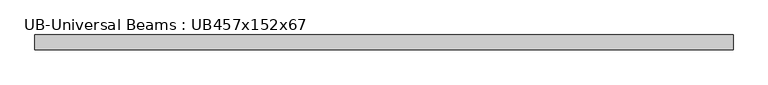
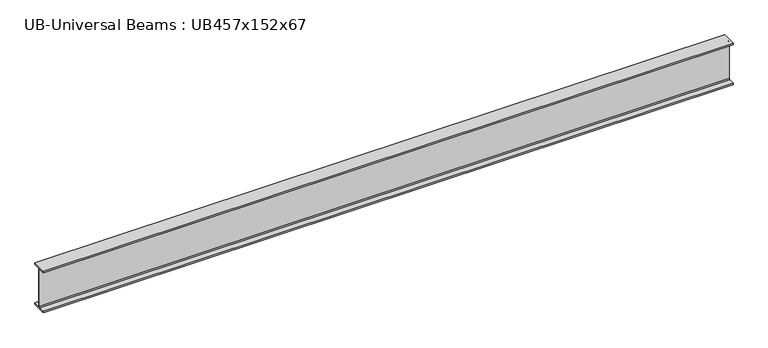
"""IFC4 building model written with IfcOpenShell, lengths in millimetres: beam geometry, UB-Universal Beams : UB457x152x67."""

from ifc_helpers import new_model, si_unit, point, frame, frame_2d, origin, place, context, project, spatial, polyline, circle_curve, trimmed, segment, composite_curve, outline, extrude, source, transform, mapped, element, save


def ub_universal_beams_ub457x152x67_691381ed(model_context):
    return source(origin(), model_context, "Body", "SweptSolid", [
        extrude(outline(composite_curve([segment(polyline([(76.9, -214.0), (76.9, -229.0), (-76.9, -229.0), (-76.9, -214.0), (-14.7, -214.0)]), True, "CONTINUOUS"), segment(trimmed(circle_curve(frame_2d((-14.7, -203.8)), 10.2), [point((-14.7, -214.0))], [point((-4.5, -203.8))], True, "CARTESIAN"), True, "CONTINUOUS"), segment(polyline([(-4.5, -203.8), (-4.5, 203.8)]), True, "CONTINUOUS"), segment(trimmed(circle_curve(frame_2d((-14.7, 203.8)), 10.2), [point((-4.5, 203.8))], [point((-14.7, 214.0))], True, "CARTESIAN"), True, "CONTINUOUS"), segment(polyline([(-14.7, 214.0), (-76.9, 214.0), (-76.9, 229.0), (76.9, 229.0), (76.9, 214.0), (14.7, 214.0)]), True, "CONTINUOUS"), segment(trimmed(circle_curve(frame_2d((14.7, 203.8)), 10.2), [point((14.7, 214.0))], [point((4.5, 203.8))], True, "CARTESIAN"), True, "CONTINUOUS"), segment(polyline([(4.5, 203.8), (4.5, -203.8)]), True, "CONTINUOUS"), segment(trimmed(circle_curve(frame_2d((14.7, -203.8)), 10.2), [point((4.5, -203.8))], [point((14.7, -214.0))], True, "CARTESIAN"), True, "CONTINUOUS"), segment(polyline([(14.7, -214.0), (76.9, -214.0)]), True, "CONTINUOUS")], self_intersect=False)), frame((-3637.3, 0.0, 0.0), z_axis=(1.0, 0.0, 0.0), x_axis=(0.0, 1.0, 0.0)), (0.0, 0.0, 1.0), 7220.9),
    ])


if __name__ == "__main__":
    model = new_model("IFC4")
    model_context = context("Model", 3, world=origin())
    ifc_project = project(units=[si_unit("LENGTHUNIT", "METRE", prefix="MILLI")], contexts=[model_context])
    site = spatial("IfcSite", under=ifc_project)
    building = spatial("IfcBuilding", under=site)
    placement = place(None, origin())
    ub_universal_beams_ub457x152x67_shape = ub_universal_beams_ub457x152x67_691381ed(model_context)
    element("IfcBeam", 1, ObjectType="UB-Universal Beams : UB457x152x67", at=placement, inside=building, context=model_context, shape_type="MappedRepresentation", body=[
        mapped(ub_universal_beams_ub457x152x67_shape, transform((0.0, 0.0, 0.0), x_axis=(1.0, 0.0, 0.0), y_axis=(0.0, 1.0, 0.0), z_axis=(0.0, 0.0, 1.0))),
    ])
    save(model, "model.ifc")
